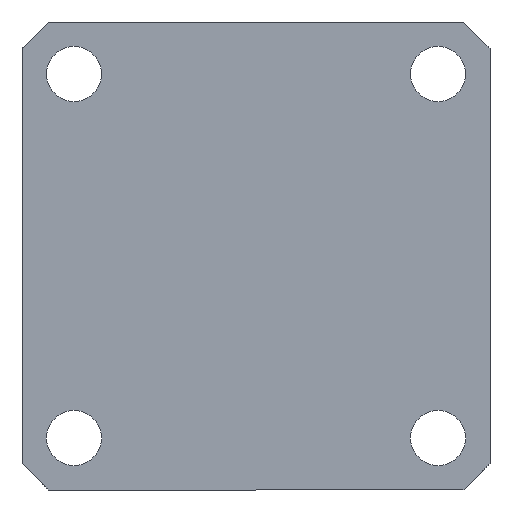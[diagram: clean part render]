
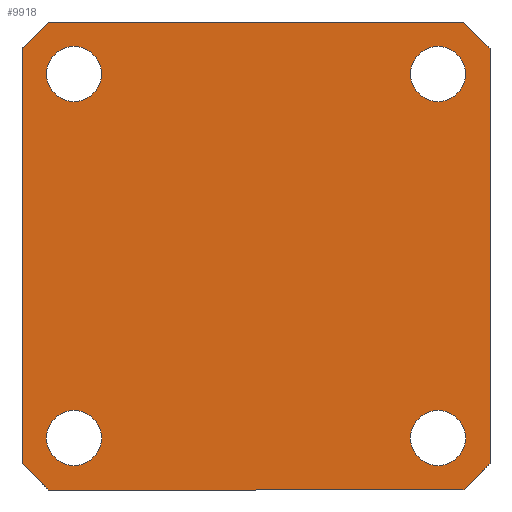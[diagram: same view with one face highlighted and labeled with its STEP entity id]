
A CAD part, front view. The second image highlights one B-rep face of the part: STEP entity #9918.
In plain terms, the highlighted planar face has unit normal (0, -1, 0).
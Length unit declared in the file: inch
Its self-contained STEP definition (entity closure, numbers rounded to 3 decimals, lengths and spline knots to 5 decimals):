
#2709 = CARTESIAN_POINT ( 'NONE',  ( -1., 0., 1.125 ) ) ;
#2740 = CARTESIAN_POINT ( 'NONE',  ( -1., 0., -1.125 ) ) ;
#4877 = DIRECTION ( 'NONE',  ( 0., 0., -1. ) ) ;
#4878 = DIRECTION ( 'NONE',  ( 0., -1., 0. ) ) ;
#4879 = CARTESIAN_POINT ( 'NONE',  ( 1.125, 0., -1.125 ) ) ;
#4880 = PLANE ( 'NONE',  #9952 ) ;
#5585 = LINE ( 'NONE', #15981, #5586 ) ;
#5586 = VECTOR ( 'NONE', #15980, 39.37008 ) ;
#5603 = LINE ( 'NONE', #15959, #5604 ) ;
#5604 = VECTOR ( 'NONE', #15958, 39.37008 ) ;
#5605 = CIRCLE ( 'NONE', #9787, 0.1325 ) ;
#5606 = CIRCLE ( 'NONE', #9788, 0.1325 ) ;
#5607 = CIRCLE ( 'NONE', #9789, 0.1325 ) ;
#5608 = LINE ( 'NONE', #15943, #5610 ) ;
#5609 = CIRCLE ( 'NONE', #9790, 0.1325 ) ;
#5610 = VECTOR ( 'NONE', #15942, 39.37008 ) ;
#5611 = LINE ( 'NONE', #15941, #5612 ) ;
#5612 = VECTOR ( 'NONE', #15940, 39.37008 ) ;
#5613 = LINE ( 'NONE', #15939, #5614 ) ;
#5614 = VECTOR ( 'NONE', #15938, 39.37008 ) ;
#5615 = LINE ( 'NONE', #15937, #5616 ) ;
#5616 = VECTOR ( 'NONE', #15936, 39.37008 ) ;
#6808 = EDGE_LOOP ( 'NONE', ( #11589, #11590, #11591, #11592, #11593, #11594, #11595, #11596 ) ) ;
#6809 = EDGE_LOOP ( 'NONE', ( #11587, #11588 ) ) ;
#6810 = EDGE_LOOP ( 'NONE', ( #11585, #11586 ) ) ;
#6811 = EDGE_LOOP ( 'NONE', ( #11583, #11584 ) ) ;
#6812 = EDGE_LOOP ( 'NONE', ( #11581, #11582 ) ) ;
#7285 = CIRCLE ( 'NONE', #9483, 0.1325 ) ;
#7439 = EDGE_CURVE ( 'NONE', #9006, #8978, #7285, .T. ) ;
#8387 = EDGE_CURVE ( 'NONE', #8784, #8728, #5585, .T. ) ;
#8396 = EDGE_CURVE ( 'NONE', #12424, #8885, #5603, .T. ) ;
#8397 = EDGE_CURVE ( 'NONE', #8978, #9006, #5605, .T. ) ;
#8398 = EDGE_CURVE ( 'NONE', #9002, #9045, #5606, .T. ) ;
#8399 = EDGE_CURVE ( 'NONE', #9040, #9027, #5607, .T. ) ;
#8400 = EDGE_CURVE ( 'NONE', #8726, #8808, #5609, .T. ) ;
#8401 = EDGE_CURVE ( 'NONE', #8784, #12439, #5608, .T. ) ;
#8402 = EDGE_CURVE ( 'NONE', #8744, #8961, #5611, .T. ) ;
#8403 = EDGE_CURVE ( 'NONE', #8834, #8885, #5613, .T. ) ;
#8404 = EDGE_CURVE ( 'NONE', #12424, #8728, #5615, .T. ) ;
#8457 = EDGE_CURVE ( 'NONE', #8834, #8961, #10118, .T. ) ;
#8467 = EDGE_CURVE ( 'NONE', #8744, #12439, #10137, .T. ) ;
#8726 = VERTEX_POINT ( 'NONE', #15726 ) ;
#8728 = VERTEX_POINT ( 'NONE', #15724 ) ;
#8744 = VERTEX_POINT ( 'NONE', #15706 ) ;
#8784 = VERTEX_POINT ( 'NONE', #15659 ) ;
#8808 = VERTEX_POINT ( 'NONE', #15634 ) ;
#8834 = VERTEX_POINT ( 'NONE', #15605 ) ;
#8885 = VERTEX_POINT ( 'NONE', #15554 ) ;
#8961 = VERTEX_POINT ( 'NONE', #15475 ) ;
#8978 = VERTEX_POINT ( 'NONE', #15455 ) ;
#9002 = VERTEX_POINT ( 'NONE', #15428 ) ;
#9006 = VERTEX_POINT ( 'NONE', #15422 ) ;
#9027 = VERTEX_POINT ( 'NONE', #15400 ) ;
#9040 = VERTEX_POINT ( 'NONE', #15384 ) ;
#9045 = VERTEX_POINT ( 'NONE', #15379 ) ;
#9451 = EDGE_CURVE ( 'NONE', #8808, #8726, #10239, .T. ) ;
#9473 = EDGE_CURVE ( 'NONE', #9045, #9002, #10264, .T. ) ;
#9478 = EDGE_CURVE ( 'NONE', #9027, #9040, #10270, .T. ) ;
#9483 = AXIS2_PLACEMENT_3D ( 'NONE', #17013, #17012, #17011 ) ;
#9787 = AXIS2_PLACEMENT_3D ( 'NONE', #15957, #15956, #15955 ) ;
#9788 = AXIS2_PLACEMENT_3D ( 'NONE', #15954, #15953, #15952 ) ;
#9789 = AXIS2_PLACEMENT_3D ( 'NONE', #15951, #15950, #15949 ) ;
#9790 = AXIS2_PLACEMENT_3D ( 'NONE', #15948, #15947, #15946 ) ;
#9814 = AXIS2_PLACEMENT_3D ( 'NONE', #15037, #15036, #15035 ) ;
#9823 = AXIS2_PLACEMENT_3D ( 'NONE', #14991, #14990, #14989 ) ;
#9825 = AXIS2_PLACEMENT_3D ( 'NONE', #14981, #14980, #14979 ) ;
#9918 = ADVANCED_FACE ( 'NONE', ( #19090, #19091, #19092, #19093, #19094 ), #4880, .T. ) ;
#9952 = AXIS2_PLACEMENT_3D ( 'NONE', #4879, #4878, #4877 ) ;
#10118 = LINE ( 'NONE', #15764, #10119 ) ;
#10119 = VECTOR ( 'NONE', #15763, 39.37008 ) ;
#10137 = LINE ( 'NONE', #15740, #10138 ) ;
#10138 = VECTOR ( 'NONE', #15739, 39.37008 ) ;
#10239 = CIRCLE ( 'NONE', #9814, 0.1325 ) ;
#10264 = CIRCLE ( 'NONE', #9823, 0.1325 ) ;
#10270 = CIRCLE ( 'NONE', #9825, 0.1325 ) ;
#11581 = ORIENTED_EDGE ( 'NONE', *, *, #8397, .T. ) ;
#11582 = ORIENTED_EDGE ( 'NONE', *, *, #7439, .T. ) ;
#11583 = ORIENTED_EDGE ( 'NONE', *, *, #8398, .T. ) ;
#11584 = ORIENTED_EDGE ( 'NONE', *, *, #9473, .T. ) ;
#11585 = ORIENTED_EDGE ( 'NONE', *, *, #8399, .T. ) ;
#11586 = ORIENTED_EDGE ( 'NONE', *, *, #9478, .T. ) ;
#11587 = ORIENTED_EDGE ( 'NONE', *, *, #8400, .T. ) ;
#11588 = ORIENTED_EDGE ( 'NONE', *, *, #9451, .T. ) ;
#11589 = ORIENTED_EDGE ( 'NONE', *, *, #8387, .F. ) ;
#11590 = ORIENTED_EDGE ( 'NONE', *, *, #8401, .T. ) ;
#11591 = ORIENTED_EDGE ( 'NONE', *, *, #8467, .F. ) ;
#11592 = ORIENTED_EDGE ( 'NONE', *, *, #8402, .T. ) ;
#11593 = ORIENTED_EDGE ( 'NONE', *, *, #8457, .F. ) ;
#11594 = ORIENTED_EDGE ( 'NONE', *, *, #8403, .T. ) ;
#11595 = ORIENTED_EDGE ( 'NONE', *, *, #8396, .F. ) ;
#11596 = ORIENTED_EDGE ( 'NONE', *, *, #8404, .T. ) ;
#12424 = VERTEX_POINT ( 'NONE', #2709 ) ;
#12439 = VERTEX_POINT ( 'NONE', #2740 ) ;
#14979 = DIRECTION ( 'NONE',  ( 0., 0., -1. ) ) ;
#14980 = DIRECTION ( 'NONE',  ( 0., 1., 0. ) ) ;
#14981 = CARTESIAN_POINT ( 'NONE',  ( 0.875, 0., 0.875 ) ) ;
#14989 = DIRECTION ( 'NONE',  ( 0., 0., -1. ) ) ;
#14990 = DIRECTION ( 'NONE',  ( 0., 1., 0. ) ) ;
#14991 = CARTESIAN_POINT ( 'NONE',  ( -0.875, 0., -0.875 ) ) ;
#15035 = DIRECTION ( 'NONE',  ( 0., 0., -1. ) ) ;
#15036 = DIRECTION ( 'NONE',  ( 0., 1., 0. ) ) ;
#15037 = CARTESIAN_POINT ( 'NONE',  ( -0.875, 0., 0.875 ) ) ;
#15379 = CARTESIAN_POINT ( 'NONE',  ( -0.875, 0., -1.0075 ) ) ;
#15384 = CARTESIAN_POINT ( 'NONE',  ( 0.875, 0., 1.0075 ) ) ;
#15400 = CARTESIAN_POINT ( 'NONE',  ( 0.875, 0., 0.7425 ) ) ;
#15422 = CARTESIAN_POINT ( 'NONE',  ( 0.875, 0., -1.0075 ) ) ;
#15428 = CARTESIAN_POINT ( 'NONE',  ( -0.875, 0., -0.7425 ) ) ;
#15455 = CARTESIAN_POINT ( 'NONE',  ( 0.875, 0., -0.7425 ) ) ;
#15475 = CARTESIAN_POINT ( 'NONE',  ( 1.125, 0., -1. ) ) ;
#15554 = CARTESIAN_POINT ( 'NONE',  ( 1., 0., 1.125 ) ) ;
#15605 = CARTESIAN_POINT ( 'NONE',  ( 1.125, 0., 1. ) ) ;
#15634 = CARTESIAN_POINT ( 'NONE',  ( -0.875, 0., 0.7425 ) ) ;
#15659 = CARTESIAN_POINT ( 'NONE',  ( -1.125, 0., -1. ) ) ;
#15706 = CARTESIAN_POINT ( 'NONE',  ( 1., 0., -1.125 ) ) ;
#15724 = CARTESIAN_POINT ( 'NONE',  ( -1.125, 0., 1. ) ) ;
#15726 = CARTESIAN_POINT ( 'NONE',  ( -0.875, 0., 1.0075 ) ) ;
#15739 = DIRECTION ( 'NONE',  ( -1., 0., 0. ) ) ;
#15740 = CARTESIAN_POINT ( 'NONE',  ( -1.125, 0., -1.125 ) ) ;
#15763 = DIRECTION ( 'NONE',  ( 0., 0., -1. ) ) ;
#15764 = CARTESIAN_POINT ( 'NONE',  ( 1.125, 0., 1.125 ) ) ;
#15936 = DIRECTION ( 'NONE',  ( -0.707, 0., -0.707 ) ) ;
#15937 = CARTESIAN_POINT ( 'NONE',  ( -1.0625, 0., 1.0625 ) ) ;
#15938 = DIRECTION ( 'NONE',  ( -0.707, 0., 0.707 ) ) ;
#15939 = CARTESIAN_POINT ( 'NONE',  ( 2.1875, 0., -0.0625 ) ) ;
#15940 = DIRECTION ( 'NONE',  ( 0.707, 0., 0.707 ) ) ;
#15941 = CARTESIAN_POINT ( 'NONE',  ( 1.0625, 0., -1.0625 ) ) ;
#15942 = DIRECTION ( 'NONE',  ( 0.707, 0., -0.707 ) ) ;
#15943 = CARTESIAN_POINT ( 'NONE',  ( 0.0625, 0., -2.1875 ) ) ;
#15946 = DIRECTION ( 'NONE',  ( 0., 0., -1. ) ) ;
#15947 = DIRECTION ( 'NONE',  ( 0., 1., 0. ) ) ;
#15948 = CARTESIAN_POINT ( 'NONE',  ( -0.875, 0., 0.875 ) ) ;
#15949 = DIRECTION ( 'NONE',  ( 0., 0., -1. ) ) ;
#15950 = DIRECTION ( 'NONE',  ( 0., 1., 0. ) ) ;
#15951 = CARTESIAN_POINT ( 'NONE',  ( 0.875, 0., 0.875 ) ) ;
#15952 = DIRECTION ( 'NONE',  ( 0., 0., -1. ) ) ;
#15953 = DIRECTION ( 'NONE',  ( 0., 1., 0. ) ) ;
#15954 = CARTESIAN_POINT ( 'NONE',  ( -0.875, 0., -0.875 ) ) ;
#15955 = DIRECTION ( 'NONE',  ( 0., 0., -1. ) ) ;
#15956 = DIRECTION ( 'NONE',  ( 0., 1., 0. ) ) ;
#15957 = CARTESIAN_POINT ( 'NONE',  ( 0.875, 0., -0.875 ) ) ;
#15958 = DIRECTION ( 'NONE',  ( 1., 0., 0. ) ) ;
#15959 = CARTESIAN_POINT ( 'NONE',  ( -1.125, 0., 1.125 ) ) ;
#15980 = DIRECTION ( 'NONE',  ( 0., 0., 1. ) ) ;
#15981 = CARTESIAN_POINT ( 'NONE',  ( -1.125, 0., 1.125 ) ) ;
#17011 = DIRECTION ( 'NONE',  ( 0., 0., -1. ) ) ;
#17012 = DIRECTION ( 'NONE',  ( 0., 1., 0. ) ) ;
#17013 = CARTESIAN_POINT ( 'NONE',  ( 0.875, 0., -0.875 ) ) ;
#19090 = FACE_BOUND ( 'NONE', #6812, .T. ) ;
#19091 = FACE_BOUND ( 'NONE', #6811, .T. ) ;
#19092 = FACE_BOUND ( 'NONE', #6810, .T. ) ;
#19093 = FACE_BOUND ( 'NONE', #6809, .T. ) ;
#19094 = FACE_OUTER_BOUND ( 'NONE', #6808, .T. ) ;
